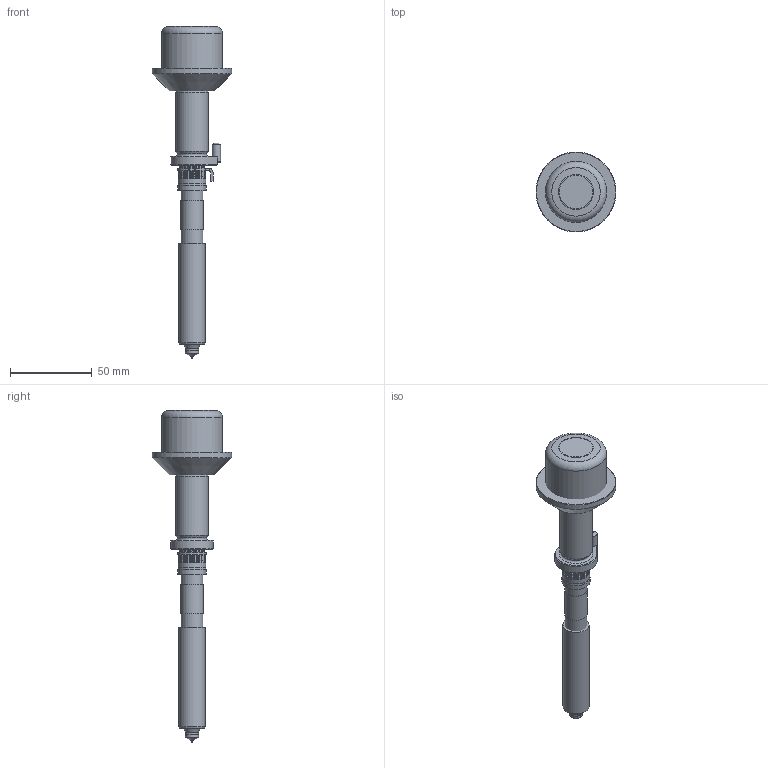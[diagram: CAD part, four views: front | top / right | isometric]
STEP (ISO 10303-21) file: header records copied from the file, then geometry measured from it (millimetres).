
FILE_DESCRIPTION(/* description */ (''),/* implementation_level */ '2;1');
FILE_NAME(/* name */ 'U350 VG LX.stp',/* time_stamp */ '2021-12-24T15:37:24+08:00',/* author */ (''),/* organization */ (''),/* preprocessor_version */ 'ST-DEVELOPER v16',/* originating_system */ 'SIEMENS PLM Software NX 11.0',/* authorisation */ '');
FILE_SCHEMA (('AUTOMOTIVE_DESIGN { 1 0 10303 214 3 1 1 1 }'));
Length unit declared in the file: millimetre
Products named in the file (17): 3D_EXPORT_3D_ASSY_11314573_3_id89_x_t; 3D_EXPORT_3D_ASSY_11314573_3_id82_x_t; 3D_EXPORT_3D_ASSY_11314573_3_id77_x_t; 3D_EXPORT_3D_ASSY_11314573_3_id72_x_t; 3D_EXPORT_3D_ASSY_11314573_3_id67_x_t; 3D_EXPORT_3D_ASSY_11314573_3_id62_x_t; 3D_EXPORT_3D_ASSY_11314573_3_id57_x_t; 3D_EXPORT_3D_ASSY_11314573_3_id52_x_t; 3D_EXPORT_3D_ASSY_11314573_3_id41_x_t; 3D_EXPORT_3D_ASSY_11314573_3_id36_x_t; 3D_EXPORT_3D_ASSY_11314573_3_id31_x_t; 3D_EXPORT_3D_ASSY_11314573_3_id26_x_t; 3D_EXPORT_3D_ASSY_11314573_3_id21_x_t; 3D_EXPORT_3D_ASSY_11314573_3_id16_x_t; 3D_EXPORT_3D_ASSY_11314573_3_id11_x_t; 3D_EXPORT_3D_ASSY_11314573_3_id6_x_t; 3D_EXPORT_3D_ASSY_11314573_3_x_t
Assembly tree (20 placements, depth 2):
  3D_EXPORT_3D_ASSY_11314573_3_x_t
    3D_EXPORT_3D_ASSY_11314573_3_id6_x_t
    3D_EXPORT_3D_ASSY_11314573_3_id11_x_t
    3D_EXPORT_3D_ASSY_11314573_3_id16_x_t
    3D_EXPORT_3D_ASSY_11314573_3_id21_x_t
    3D_EXPORT_3D_ASSY_11314573_3_id26_x_t
    3D_EXPORT_3D_ASSY_11314573_3_id31_x_t
    3D_EXPORT_3D_ASSY_11314573_3_id36_x_t
    3D_EXPORT_3D_ASSY_11314573_3_id41_x_t  x4
    3D_EXPORT_3D_ASSY_11314573_3_id52_x_t
    3D_EXPORT_3D_ASSY_11314573_3_id57_x_t
    3D_EXPORT_3D_ASSY_11314573_3_id62_x_t
    3D_EXPORT_3D_ASSY_11314573_3_id67_x_t
    3D_EXPORT_3D_ASSY_11314573_3_id72_x_t
    3D_EXPORT_3D_ASSY_11314573_3_id77_x_t
    3D_EXPORT_3D_ASSY_11314573_3_id82_x_t  x2
    3D_EXPORT_3D_ASSY_11314573_3_id89_x_t
Bounding box: 49 x 49 x 203.54 mm (x, y, z)
Volume: 108473.8 mm3; surface area: 34344.4 mm2
Topology: 20 solids, 20 shells, 455 faces, 1115 edges, 706 vertices
Faces by surface type: cylinder 186, plane 153, torus 63, cone 51, bspline 1, sphere 1
Full cylindrical faces by diameter (mm): 1.2 x2, 1.7 x2, 2.49 x1, 2.53 x1, 4.027 x1, 5 x1, 6 x1, 6.89 x1, 6.895 x1, 7.2 x1, 7.283 x1, 7.4 x1, 7.87 x1, 7.995 x1, 8 x2, 9.4 x1, 9.95 x1, 9.97 x2, 10 x1, 11.06 x1, 11.5 x1, 12.3 x1, 12.494 x1, 12.7 x1, 13.3 x2, 14 x1, 14.05 x1, 15 x1, 16 x1, 16.34 x1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
Entity records: 15417 total; most frequent: CARTESIAN_POINT 2596, DIRECTION 1999, ORIENTED_EDGE 1788, EDGE_CURVE 894, AXIS2_PLACEMENT_3D 814, VERTEX_POINT 621, EDGE_LOOP 583, PRESENTATION_STYLE_ASSIGNMENT 438
